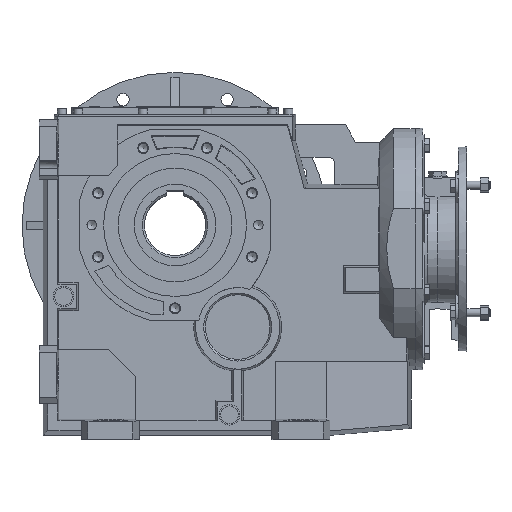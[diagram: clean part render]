
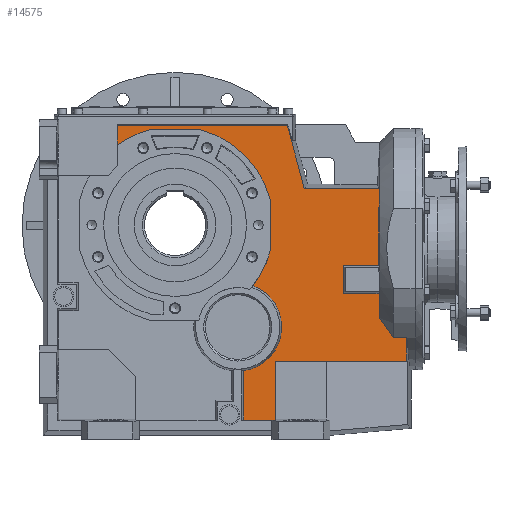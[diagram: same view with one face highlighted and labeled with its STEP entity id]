
A CAD part, top view. The second image highlights one B-rep face of the part: STEP entity #14575.
In plain terms, the highlighted planar face has unit normal (0, 0, 1) as drawn and (0, 0, -1) by its records, which use the part's own axes.
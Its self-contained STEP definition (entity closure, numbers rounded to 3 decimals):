
#142=B_SPLINE_CURVE_WITH_KNOTS('',3,(#21335,#21336,#21337,#21338),
 .UNSPECIFIED.,.F.,.F.,(4,4),(0.,0.035),
 .UNSPECIFIED.);
#143=B_SPLINE_CURVE_WITH_KNOTS('',3,(#21340,#21341,#21342,#21343),
 .UNSPECIFIED.,.F.,.F.,(4,4),(0.371,0.407),
 .UNSPECIFIED.);
#144=B_SPLINE_CURVE_WITH_KNOTS('',3,(#21351,#21352,#21353,#21354,#21355),
 .UNSPECIFIED.,.F.,.F.,(4,1,4),(0.449,0.505,0.562),
 .UNSPECIFIED.);
#545=LINE('',#21283,#2017);
#563=LINE('',#21323,#2035);
#564=LINE('',#21325,#2036);
#565=LINE('',#21327,#2037);
#566=LINE('',#21329,#2038);
#567=LINE('',#21331,#2039);
#568=LINE('',#21333,#2040);
#569=LINE('',#21345,#2041);
#570=LINE('',#21347,#2042);
#571=LINE('',#21349,#2043);
#572=LINE('',#21357,#2044);
#573=LINE('',#21359,#2045);
#574=LINE('',#21361,#2046);
#575=LINE('',#21363,#2047);
#576=LINE('',#21367,#2048);
#577=LINE('',#21371,#2049);
#2017=VECTOR('',#16971,1000.);
#2035=VECTOR('',#16997,1000.);
#2036=VECTOR('',#16998,1000.);
#2037=VECTOR('',#16999,1000.);
#2038=VECTOR('',#17000,1000.);
#2039=VECTOR('',#17001,1000.);
#2040=VECTOR('',#17002,1000.);
#2041=VECTOR('',#17003,1000.);
#2042=VECTOR('',#17004,1000.);
#2043=VECTOR('',#17005,1000.);
#2044=VECTOR('',#17006,1000.);
#2045=VECTOR('',#17007,1000.);
#2046=VECTOR('',#17008,1000.);
#2047=VECTOR('',#17009,1000.);
#2048=VECTOR('',#17012,1000.);
#2049=VECTOR('',#17015,1000.);
#3527=ORIENTED_EDGE('',*,*,#7718,.F.);
#3528=ORIENTED_EDGE('',*,*,#7698,.T.);
#3529=ORIENTED_EDGE('',*,*,#7719,.F.);
#3530=ORIENTED_EDGE('',*,*,#7720,.F.);
#3531=ORIENTED_EDGE('',*,*,#7721,.F.);
#3532=ORIENTED_EDGE('',*,*,#7722,.F.);
#3533=ORIENTED_EDGE('',*,*,#7723,.T.);
#3534=ORIENTED_EDGE('',*,*,#7724,.T.);
#3535=ORIENTED_EDGE('',*,*,#7725,.T.);
#3536=ORIENTED_EDGE('',*,*,#7726,.F.);
#3537=ORIENTED_EDGE('',*,*,#7727,.T.);
#3538=ORIENTED_EDGE('',*,*,#7728,.T.);
#3539=ORIENTED_EDGE('',*,*,#7729,.T.);
#3540=ORIENTED_EDGE('',*,*,#7730,.F.);
#3541=ORIENTED_EDGE('',*,*,#7731,.F.);
#3542=ORIENTED_EDGE('',*,*,#7732,.F.);
#3543=ORIENTED_EDGE('',*,*,#7733,.F.);
#3544=ORIENTED_EDGE('',*,*,#7734,.F.);
#3545=ORIENTED_EDGE('',*,*,#7735,.F.);
#3546=ORIENTED_EDGE('',*,*,#7736,.F.);
#3547=ORIENTED_EDGE('',*,*,#7737,.F.);
#3548=ORIENTED_EDGE('',*,*,#7738,.F.);
#3549=ORIENTED_EDGE('',*,*,#7739,.F.);
#7698=EDGE_CURVE('',#9793,#9792,#545,.T.);
#7718=EDGE_CURVE('',#9793,#9811,#563,.T.);
#7719=EDGE_CURVE('',#9812,#9792,#564,.T.);
#7720=EDGE_CURVE('',#9813,#9812,#565,.T.);
#7721=EDGE_CURVE('',#9814,#9813,#566,.T.);
#7722=EDGE_CURVE('',#9815,#9814,#567,.T.);
#7723=EDGE_CURVE('',#9815,#9816,#568,.T.);
#7724=EDGE_CURVE('',#9816,#9817,#142,.T.);
#7725=EDGE_CURVE('',#9817,#9818,#143,.T.);
#7726=EDGE_CURVE('',#9819,#9818,#569,.T.);
#7727=EDGE_CURVE('',#9819,#9820,#570,.T.);
#7728=EDGE_CURVE('',#9820,#9821,#571,.T.);
#7729=EDGE_CURVE('',#9821,#9822,#144,.T.);
#7730=EDGE_CURVE('',#9823,#9822,#572,.T.);
#7731=EDGE_CURVE('',#9824,#9823,#573,.T.);
#7732=EDGE_CURVE('',#9825,#9824,#574,.T.);
#7733=EDGE_CURVE('',#9826,#9825,#575,.T.);
#7734=EDGE_CURVE('',#9827,#9826,#11185,.F.);
#7735=EDGE_CURVE('',#9828,#9827,#576,.T.);
#7736=EDGE_CURVE('',#9829,#9828,#11186,.F.);
#7737=EDGE_CURVE('',#9830,#9829,#577,.T.);
#7738=EDGE_CURVE('',#9831,#9830,#11187,.F.);
#7739=EDGE_CURVE('',#9811,#9831,#11188,.F.);
#9792=VERTEX_POINT('',#21282);
#9793=VERTEX_POINT('',#21284);
#9811=VERTEX_POINT('',#21324);
#9812=VERTEX_POINT('',#21326);
#9813=VERTEX_POINT('',#21328);
#9814=VERTEX_POINT('',#21330);
#9815=VERTEX_POINT('',#21332);
#9816=VERTEX_POINT('',#21334);
#9817=VERTEX_POINT('',#21339);
#9818=VERTEX_POINT('',#21344);
#9819=VERTEX_POINT('',#21346);
#9820=VERTEX_POINT('',#21348);
#9821=VERTEX_POINT('',#21350);
#9822=VERTEX_POINT('',#21356);
#9823=VERTEX_POINT('',#21358);
#9824=VERTEX_POINT('',#21360);
#9825=VERTEX_POINT('',#21362);
#9826=VERTEX_POINT('',#21364);
#9827=VERTEX_POINT('',#21366);
#9828=VERTEX_POINT('',#21368);
#9829=VERTEX_POINT('',#21370);
#9830=VERTEX_POINT('',#21372);
#9831=VERTEX_POINT('',#21374);
#11185=CIRCLE('',#15487,145.);
#11186=CIRCLE('',#15488,145.);
#11187=CIRCLE('',#15489,145.);
#11188=CIRCLE('',#15490,64.645);
#11666=EDGE_LOOP('',(#3527,#3528,#3529,#3530,#3531,#3532,#3533,#3534,#3535,
#3536,#3537,#3538,#3539,#3540,#3541,#3542,#3543,#3544,#3545,#3546,#3547,
#3548,#3549));
#12801=FACE_BOUND('',#11666,.T.);
#13951=PLANE('',#15486);
#14575=ADVANCED_FACE('',(#12801),#13951,.F.);
#15486=AXIS2_PLACEMENT_3D('',#21322,#16995,#16996);
#15487=AXIS2_PLACEMENT_3D('',#21365,#17010,#17011);
#15488=AXIS2_PLACEMENT_3D('',#21369,#17013,#17014);
#15489=AXIS2_PLACEMENT_3D('',#21373,#17016,#17017);
#15490=AXIS2_PLACEMENT_3D('',#21375,#17018,#17019);
#16971=DIRECTION('',(-1.,0.,0.));
#16995=DIRECTION('',(0.,0.,1.));
#16996=DIRECTION('',(1.,0.,0.));
#16997=DIRECTION('',(0.,1.,0.));
#16998=DIRECTION('',(0.,-1.,0.));
#16999=DIRECTION('',(1.,0.,0.));
#17000=DIRECTION('',(1.,0.,0.));
#17001=DIRECTION('',(0.,-1.,0.));
#17002=DIRECTION('',(1.,0.,0.));
#17003=DIRECTION('',(-1.,0.,0.));
#17004=DIRECTION('',(0.,1.,0.));
#17005=DIRECTION('',(-1.,0.,0.));
#17006=DIRECTION('',(-1.,0.,0.));
#17007=DIRECTION('',(-0.259,-0.966,0.));
#17008=DIRECTION('',(-1.,0.,0.));
#17009=DIRECTION('',(0.,1.,0.));
#17010=DIRECTION('',(0.,0.,1.));
#17011=DIRECTION('',(1.,0.,0.));
#17012=DIRECTION('',(1.,0.,0.));
#17013=DIRECTION('',(0.,0.,1.));
#17014=DIRECTION('',(1.,0.,0.));
#17015=DIRECTION('',(0.,1.,0.));
#17016=DIRECTION('',(0.,0.,1.));
#17017=DIRECTION('',(1.,0.,0.));
#17018=DIRECTION('',(0.,0.,1.));
#17019=DIRECTION('',(1.,0.,0.));
#21282=CARTESIAN_POINT('',(205.5,-251.642,-120.));
#21283=CARTESIAN_POINT('',(0.,-251.642,-120.));
#21284=CARTESIAN_POINT('',(252.321,-251.642,-120.));
#21322=CARTESIAN_POINT('',(0.,0.,-120.));
#21323=CARTESIAN_POINT('',(252.321,0.,-120.));
#21324=CARTESIAN_POINT('',(252.321,-179.068,-120.));
#21325=CARTESIAN_POINT('',(205.5,0.,-120.));
#21326=CARTESIAN_POINT('',(205.5,-165.,-120.));
#21327=CARTESIAN_POINT('',(0.,-165.,-120.));
#21328=CARTESIAN_POINT('',(130.5,-165.,-120.));
#21329=CARTESIAN_POINT('',(0.,-165.,-120.));
#21330=CARTESIAN_POINT('',(12.289,-165.,-120.));
#21331=CARTESIAN_POINT('',(12.289,0.,-120.));
#21332=CARTESIAN_POINT('',(12.289,-130.791,-120.));
#21333=CARTESIAN_POINT('',(60.254,-130.791,-120.));
#21334=CARTESIAN_POINT('',(32.,-130.791,-120.));
#21335=CARTESIAN_POINT('',(32.,-130.791,-120.));
#21336=CARTESIAN_POINT('',(38.951,-121.357,-120.));
#21337=CARTESIAN_POINT('',(45.666,-111.791,-120.));
#21338=CARTESIAN_POINT('',(52.,-102.011,-120.));
#21339=CARTESIAN_POINT('',(52.,-102.011,-120.));
#21340=CARTESIAN_POINT('',(52.,-102.011,-120.));
#21341=CARTESIAN_POINT('',(52.411,-89.903,-120.));
#21342=CARTESIAN_POINT('',(52.78,-77.792,-120.));
#21343=CARTESIAN_POINT('',(53.085,-65.679,-120.));
#21344=CARTESIAN_POINT('',(53.085,-65.679,-120.));
#21345=CARTESIAN_POINT('',(0.,-65.679,-120.));
#21346=CARTESIAN_POINT('',(105.679,-65.679,-120.));
#21347=CARTESIAN_POINT('',(105.679,-63.,-120.));
#21348=CARTESIAN_POINT('',(105.679,-24.321,-120.));
#21349=CARTESIAN_POINT('',(103.,-24.321,-120.));
#21350=CARTESIAN_POINT('',(53.837,-24.321,-120.));
#21351=CARTESIAN_POINT('',(53.837,-24.321,-120.));
#21352=CARTESIAN_POINT('',(54.034,-5.479,-120.));
#21353=CARTESIAN_POINT('',(53.958,32.226,-120.));
#21354=CARTESIAN_POINT('',(53.02,69.885,-120.));
#21355=CARTESIAN_POINT('',(52.433,88.711,-120.));
#21356=CARTESIAN_POINT('',(52.433,88.711,-120.));
#21357=CARTESIAN_POINT('',(0.,88.711,-120.));
#21358=CARTESIAN_POINT('',(163.04,88.711,-120.));
#21359=CARTESIAN_POINT('',(129.941,-34.818,-120.));
#21360=CARTESIAN_POINT('',(187.826,181.211,-120.));
#21361=CARTESIAN_POINT('',(0.,181.211,-120.));
#21362=CARTESIAN_POINT('',(438.,181.211,-120.));
#21363=CARTESIAN_POINT('',(438.,0.,-120.));
#21364=CARTESIAN_POINT('',(438.,152.473,-120.));
#21365=CARTESIAN_POINT('',(353.,35.,-120.));
#21366=CARTESIAN_POINT('',(390.749,175.,-120.));
#21367=CARTESIAN_POINT('',(0.,175.,-120.));
#21368=CARTESIAN_POINT('',(315.251,175.,-120.));
#21369=CARTESIAN_POINT('',(353.,35.,-120.));
#21370=CARTESIAN_POINT('',(213.,72.749,-120.));
#21371=CARTESIAN_POINT('',(213.,0.,-120.));
#21372=CARTESIAN_POINT('',(213.,-2.749,-120.));
#21373=CARTESIAN_POINT('',(353.,35.,-120.));
#21374=CARTESIAN_POINT('',(238.747,-54.282,-120.));
#21375=CARTESIAN_POINT('',(260.935,-115.,-120.));
